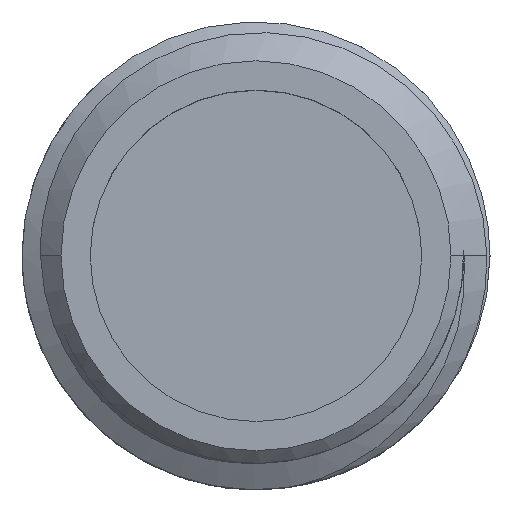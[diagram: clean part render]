
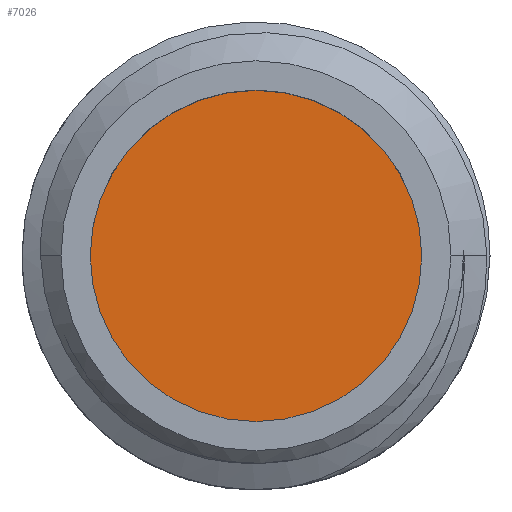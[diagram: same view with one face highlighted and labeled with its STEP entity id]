
A CAD part, top view. The second image highlights one B-rep face of the part: STEP entity #7026.
In plain terms, the highlighted planar face has unit normal (0, 0, 1).
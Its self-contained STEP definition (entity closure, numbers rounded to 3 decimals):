
#84 = VERTEX_POINT ( 'NONE', #2745 ) ;
#518 = AXIS2_PLACEMENT_3D ( 'NONE', #1091, #1291, #3382 ) ;
#1091 = CARTESIAN_POINT ( 'NONE',  ( 0., 0., 56. ) ) ;
#1291 = DIRECTION ( 'NONE',  ( 0., 0., 1. ) ) ;
#1997 = FACE_OUTER_BOUND ( 'NONE', #7860, .T. ) ;
#2170 = ORIENTED_EDGE ( 'NONE', *, *, #3248, .T. ) ;
#2481 = AXIS2_PLACEMENT_3D ( 'NONE', #3592, #9287, #7174 ) ;
#2745 = CARTESIAN_POINT ( 'NONE',  ( -4.25, 0., 56. ) ) ;
#3248 = EDGE_CURVE ( 'NONE', #84, #3447, #7070, .T. ) ;
#3382 = DIRECTION ( 'NONE',  ( 1., 0., 0. ) ) ;
#3447 = VERTEX_POINT ( 'NONE', #8988 ) ;
#3592 = CARTESIAN_POINT ( 'NONE',  ( 0., 0., 56. ) ) ;
#3804 = DIRECTION ( 'NONE',  ( 1., 0., 0. ) ) ;
#5106 = CIRCLE ( 'NONE', #7547, 4.25 ) ;
#5232 = DIRECTION ( 'NONE',  ( 0., 0., 1. ) ) ;
#6767 = CARTESIAN_POINT ( 'NONE',  ( 0., 0., 56. ) ) ;
#6921 = ORIENTED_EDGE ( 'NONE', *, *, #7419, .T. ) ;
#7026 = ADVANCED_FACE ( 'NONE', ( #1997 ), #7639, .T. ) ;
#7070 = CIRCLE ( 'NONE', #2481, 4.25 ) ;
#7174 = DIRECTION ( 'NONE',  ( 1., 0., 0. ) ) ;
#7419 = EDGE_CURVE ( 'NONE', #3447, #84, #5106, .T. ) ;
#7547 = AXIS2_PLACEMENT_3D ( 'NONE', #6767, #5232, #3804 ) ;
#7639 = PLANE ( 'NONE',  #518 ) ;
#7860 = EDGE_LOOP ( 'NONE', ( #6921, #2170 ) ) ;
#8988 = CARTESIAN_POINT ( 'NONE',  ( 4.25, 0., 56. ) ) ;
#9287 = DIRECTION ( 'NONE',  ( 0., 0., 1. ) ) ;
